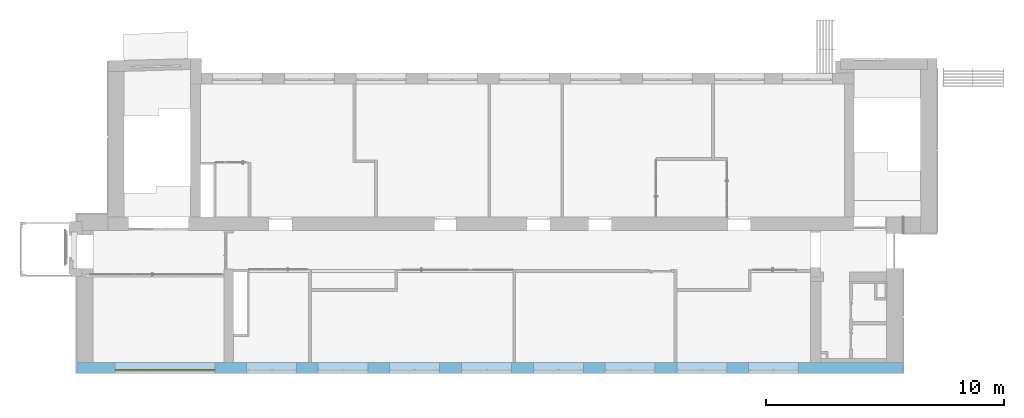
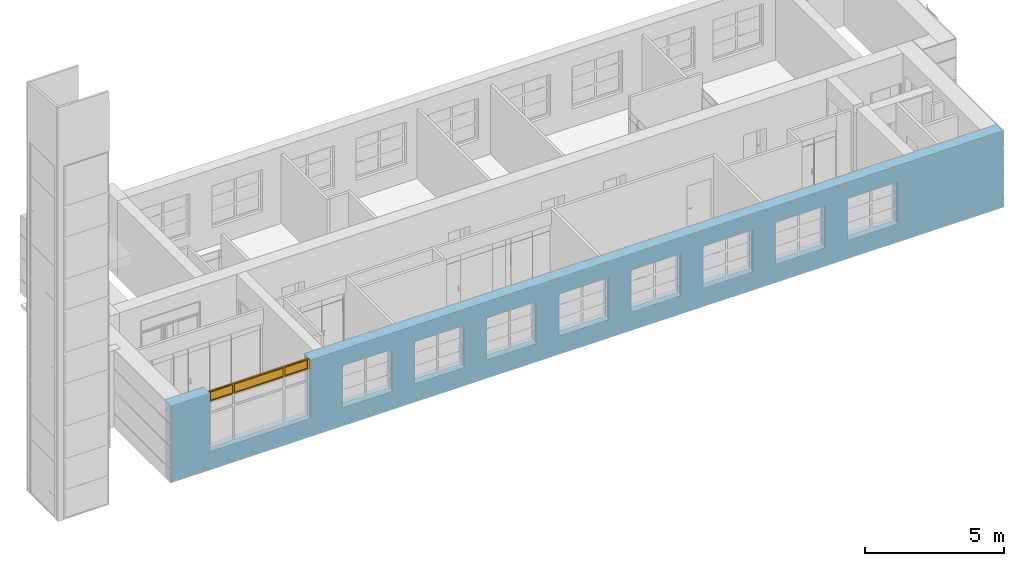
# One storey, part 47 of 66: 1 window, 10 openings, plus 1 element that does not belong to this part.
"""IFC2X3 building model written with IfcOpenShell, lengths in millimetres."""

from ifc_helpers import new_model, entity, si_unit, converted_unit, derived_unit, direction, frame, frame_2d, origin, origin_2d_with_axis, place, context, subcontext, project, spatial, rectangle, extrude, source, transform, mapped, material, material_list, layer, layer_set, layer_usage, type_object, type_shapes, element, fill, save


model = new_model("IFC2X3")

# Units and contexts
model_context = context("Model", 3, precision=0.01, world=origin(), true_north=direction((6.12303176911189e-17, 1.0)))
body_context = subcontext(model_context, "Body", "Model", "MODEL_VIEW")
ifc_project = project(units=[si_unit("LENGTHUNIT", "METRE", prefix="MILLI"), si_unit("AREAUNIT", "SQUARE_METRE"), si_unit("VOLUMEUNIT", "CUBIC_METRE"), converted_unit("PLANEANGLEUNIT", "DEGREE", entity("IfcRatioMeasure", 0.0174532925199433), si_unit("PLANEANGLEUNIT", "RADIAN"), dimensions=[0, 0, 0, 0, 0, 0, 0]), si_unit("MASSUNIT", "GRAM", prefix="KILO"), derived_unit("MASSDENSITYUNIT", [(si_unit("MASSUNIT", "GRAM", prefix="KILO"), 1), (si_unit("LENGTHUNIT", "METRE"), -3)]), si_unit("TIMEUNIT", "SECOND"), si_unit("FREQUENCYUNIT", "HERTZ"), si_unit("THERMODYNAMICTEMPERATUREUNIT", "DEGREE_CELSIUS"), derived_unit("THERMALTRANSMITTANCEUNIT", [(si_unit("MASSUNIT", "GRAM", prefix="KILO"), 1), (si_unit("THERMODYNAMICTEMPERATUREUNIT", "KELVIN"), -1), (si_unit("TIMEUNIT", "SECOND"), -3)]), derived_unit("VOLUMETRICFLOWRATEUNIT", [(si_unit("LENGTHUNIT", "METRE"), 3), (si_unit("TIMEUNIT", "SECOND"), -1)]), si_unit("ELECTRICCURRENTUNIT", "AMPERE"), si_unit("ELECTRICVOLTAGEUNIT", "VOLT"), si_unit("POWERUNIT", "WATT"), si_unit("FORCEUNIT", "NEWTON", prefix="KILO"), si_unit("ILLUMINANCEUNIT", "LUX"), si_unit("LUMINOUSFLUXUNIT", "LUMEN"), si_unit("LUMINOUSINTENSITYUNIT", "CANDELA"), derived_unit("USERDEFINED", [(si_unit("MASSUNIT", "GRAM", prefix="KILO"), -1), (si_unit("LENGTHUNIT", "METRE"), -2), (si_unit("TIMEUNIT", "SECOND"), 3), (si_unit("LUMINOUSFLUXUNIT", "LUMEN"), 1)]), derived_unit("LINEARVELOCITYUNIT", [(si_unit("LENGTHUNIT", "METRE"), 1), (si_unit("TIMEUNIT", "SECOND"), -1)]), si_unit("PRESSUREUNIT", "PASCAL"), derived_unit("USERDEFINED", [(si_unit("LENGTHUNIT", "METRE"), -2), (si_unit("MASSUNIT", "GRAM", prefix="KILO"), 1), (si_unit("TIMEUNIT", "SECOND"), -2)])], contexts=[model_context])

# Site, building, storey
site_placement = place(None, frame((-151.875543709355, 2715.0, 0.0)))
site = spatial("IfcSite", under=ifc_project, at=site_placement, Name="Surface", CompositionType="ELEMENT")
building_placement = place(site_placement, origin())
building = spatial("IfcBuilding", under=site, at=building_placement, CompositionType="ELEMENT")
storey_placement = place(building_placement, frame((0.0, 0.0, 3350.0)))
storey = spatial("IfcBuildingStorey", under=building, at=storey_placement, Name="2 korrus", CompositionType="ELEMENT", Elevation=3350.00000000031)

# Wall, openings, window
ifc_material_1 = material(Name="Brick, Common")
ifc_layer_1 = layer(ifc_material_1, 440.0)
ifc_material_2 = material(Name="__Kips GN13_tava")
ifc_layer_2 = layer(ifc_material_2, 20.0)
ifc_layer_set = layer_set([ifc_layer_1, ifc_layer_2], Name="Basic Wall:VS-1")
ifc_layer_usage = layer_usage(ifc_layer_set, "AXIS2", "NEGATIVE", 230.0)
wall_type = type_object("IfcWallType", Name="Basic Wall:VS-1", PredefinedType="STANDARD", material=ifc_layer_set)
wall_placement = place(storey_placement, frame((34420.6162682, 229.904632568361, 0.0), z_axis=(0.0, 0.0, 1.0), x_axis=(-1.0, 0.0, 0.0)))
wall = element("IfcWallStandardCase", 1, at=wall_placement, inside=storey, type_object=wall_type, material=ifc_layer_usage, Name="SEIN - 001", ObjectType="Basic Wall:VS-1", context=body_context, shape_type="SweptSolid", body=[
    extrude(rectangle(XDim=34639.7407226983, YDim=460.0, at=frame_2d((17319.8703613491, 0.0), x_axis=(-1.0, 0.0))), origin(), (0.0, 0.0, 1.0), 3380.43203354),
])
opening_1_placement = place(wall_placement, frame((34420.6162682, 229.904632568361, 0.0), z_axis=(0.0, 0.0, 1.0), x_axis=(-1.0, 0.0, 0.0)))
element("IfcOpeningElement", 2, at=opening_1_placement, cuts=wall, Name="SEIN - 001", ObjectType="Opening", context=body_context, shape_type="SweptSolid", body=[
    extrude(rectangle(XDim=2124.86776352, YDim=4200.0, at=frame_2d((2.27373675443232e-13, -5.6843418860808e-13), x_axis=(0.0, 1.0))), frame((3483.85381698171, 928.104632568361, 1872.43388175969), z_axis=(0.0, -1.0, 0.0), x_axis=(-1.0, 0.0, 0.0)), (0.0, 0.0, 1.0), 1393.8),
])
opening_2_placement = place(wall_placement, frame((34420.6162682, 229.904632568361, 0.0), z_axis=(0.0, 0.0, 1.0), x_axis=(-1.0, 0.0, 0.0)))
opening_2 = element("IfcOpeningElement", 3, at=opening_2_placement, cuts=wall, Name="SEIN - 001", ObjectType="Opening", context=body_context, shape_type="SweptSolid", body=[
    extrude(rectangle(XDim=445.564270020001, YDim=4200.0, at=origin_2d_with_axis()), frame((3483.85381698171, 928.104632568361, 3157.64989852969), z_axis=(0.0, -1.0, 0.0), x_axis=(0.0, 0.0, -1.0)), (0.0, 0.0, 1.0), 1393.8),
])
opening_3_placement = place(wall_placement, frame((34420.6162682, 229.904632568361, 0.0), z_axis=(0.0, 0.0, 1.0), x_axis=(-1.0, 0.0, 0.0)))
element("IfcOpeningElement", 4, at=opening_3_placement, cuts=wall, Name="SEIN - 001", ObjectType="Opening", context=body_context, shape_type="SweptSolid", body=[
    extrude(rectangle(XDim=1850.0, YDim=2100.0, at=frame_2d((-2.8421709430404e-13, 1.02318153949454e-12), x_axis=(1.0, 0.0))), frame((10949.5647264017, 927.804632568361, 1734.62869644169), z_axis=(0.0, -1.0, 0.0), x_axis=(0.0, 0.0, 1.0)), (0.0, 0.0, 1.0), 1393.8),
])
opening_4_placement = place(wall_placement, frame((34420.6162682, 229.904632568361, 0.0), z_axis=(0.0, 0.0, 1.0), x_axis=(-1.0, 0.0, 0.0)))
element("IfcOpeningElement", 5, at=opening_4_placement, cuts=wall, Name="SEIN - 001", ObjectType="Opening", context=body_context, shape_type="SweptSolid", body=[
    extrude(rectangle(XDim=1850.0, YDim=2100.0, at=frame_2d((-2.8421709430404e-13, 5.6843418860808e-13), x_axis=(1.0, 0.0))), frame((7949.56472636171, 927.804632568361, 1734.62869644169), z_axis=(0.0, -1.0, 0.0), x_axis=(0.0, 0.0, 1.0)), (0.0, 0.0, 1.0), 1393.8),
])
opening_5_placement = place(wall_placement, frame((34420.6162682, 229.904632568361, 0.0), z_axis=(0.0, 0.0, 1.0), x_axis=(-1.0, 0.0, 0.0)))
element("IfcOpeningElement", 6, at=opening_5_placement, cuts=wall, Name="SEIN - 001", ObjectType="Opening", context=body_context, shape_type="SweptSolid", body=[
    extrude(rectangle(XDim=1850.0, YDim=2100.0, at=frame_2d((-2.8421709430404e-13, 0.0), x_axis=(1.0, 0.0))), frame((13949.5647264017, 927.804632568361, 1734.62869644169), z_axis=(0.0, -1.0, 0.0), x_axis=(0.0, 0.0, 1.0)), (0.0, 0.0, 1.0), 1393.8),
])
opening_6_placement = place(wall_placement, frame((34420.6162682, 229.904632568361, 0.0), z_axis=(0.0, 0.0, 1.0), x_axis=(-1.0, 0.0, 0.0)))
element("IfcOpeningElement", 7, at=opening_6_placement, cuts=wall, Name="SEIN - 001", ObjectType="Opening", context=body_context, shape_type="SweptSolid", body=[
    extrude(rectangle(XDim=1850.0, YDim=2100.0, at=frame_2d((-2.8421709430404e-13, 1.02318153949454e-12), x_axis=(1.0, 0.0))), frame((16969.5647264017, 927.804632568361, 1734.62869644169), z_axis=(0.0, -1.0, 0.0), x_axis=(0.0, 0.0, 1.0)), (0.0, 0.0, 1.0), 1393.8),
])
opening_7_placement = place(wall_placement, frame((34420.6162682, 229.904632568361, 0.0), z_axis=(0.0, 0.0, 1.0), x_axis=(-1.0, 0.0, 0.0)))
element("IfcOpeningElement", 8, at=opening_7_placement, cuts=wall, Name="SEIN - 001", ObjectType="Opening", context=body_context, shape_type="SweptSolid", body=[
    extrude(rectangle(XDim=1850.0, YDim=2100.0, at=frame_2d((-2.8421709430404e-13, 0.0), x_axis=(1.0, 0.0))), frame((19979.5647264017, 927.804632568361, 1734.62869644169), z_axis=(0.0, -1.0, 0.0), x_axis=(0.0, 0.0, 1.0)), (0.0, 0.0, 1.0), 1393.8),
])
opening_8_placement = place(wall_placement, frame((34420.6162682, 229.904632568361, 0.0), z_axis=(0.0, 0.0, 1.0), x_axis=(-1.0, 0.0, 0.0)))
element("IfcOpeningElement", 9, at=opening_8_placement, cuts=wall, Name="SEIN - 001", ObjectType="Opening", context=body_context, shape_type="SweptSolid", body=[
    extrude(rectangle(XDim=1850.0, YDim=2100.0, at=frame_2d((-2.8421709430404e-13, 0.0), x_axis=(1.0, 0.0))), frame((22979.5647264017, 927.804632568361, 1734.62869644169), z_axis=(0.0, -1.0, 0.0), x_axis=(0.0, 0.0, 1.0)), (0.0, 0.0, 1.0), 1393.8),
])
opening_9_placement = place(wall_placement, frame((34420.6162682, 229.904632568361, 0.0), z_axis=(0.0, 0.0, 1.0), x_axis=(-1.0, 0.0, 0.0)))
element("IfcOpeningElement", 10, at=opening_9_placement, cuts=wall, Name="SEIN - 001", ObjectType="Opening", context=body_context, shape_type="SweptSolid", body=[
    extrude(rectangle(XDim=1850.0, YDim=2100.0, at=frame_2d((-2.8421709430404e-13, 0.0), x_axis=(1.0, 0.0))), frame((25989.5647264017, 927.804632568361, 1734.62869644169), z_axis=(0.0, -1.0, 0.0), x_axis=(0.0, 0.0, 1.0)), (0.0, 0.0, 1.0), 1393.8),
])
opening_10_placement = place(wall_placement, frame((34420.6162682, 229.904632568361, 0.0), z_axis=(0.0, 0.0, 1.0), x_axis=(-1.0, 0.0, 0.0)))
element("IfcOpeningElement", 11, at=opening_10_placement, cuts=wall, Name="SEIN - 001", ObjectType="Opening", context=body_context, shape_type="SweptSolid", body=[
    extrude(rectangle(XDim=1850.0, YDim=2100.0, at=frame_2d((-2.8421709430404e-13, 0.0), x_axis=(1.0, 0.0))), frame((28999.5647264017, 927.804632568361, 1734.62869644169), z_axis=(0.0, -1.0, 0.0), x_axis=(0.0, 0.0, 1.0)), (0.0, 0.0, 1.0), 1393.8),
])
ifc_material_3 = material(Name="Paint - Light Gray")
ifc_material_4 = material(Name="Paint - Titanium White")
ifc_material_5 = material(Name="Paint - Dark Gray")
ifc_material_list_1 = material_list([ifc_material_3, ifc_material_4, ifc_material_5])
ifc_material_list_2 = material_list([ifc_material_3, ifc_material_4, ifc_material_5])
window_style = type_object("IfcWindowStyle", Name="AKEN - 001", ConstructionType="NOTDEFINED", OperationType="NOTDEFINED", ParameterTakesPrecedence=False, Sizeable=False, material=ifc_material_list_2)
shared_shape = source(origin(), body_context, "Body", "SweptSolid", [
    extrude(rectangle(XDim=50.0, YDim=930.40893555, at=origin_2d_with_axis()), frame((3654.795532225, 610.6, 40.0), z_axis=(0.0, 0.0, 1.0), x_axis=(0.0, -1.0, 0.0)), (0.0, 0.0, 1.0), 365.56427002),
    extrude(rectangle(XDim=50.0, YDim=2020.0, at=origin_2d_with_axis()), frame((2099.59106445, 610.6, 40.0), z_axis=(0.0, 0.0, 1.0), x_axis=(0.0, -1.0, 0.0)), (0.0, 0.0, 1.0), 365.56427002),
    extrude(rectangle(XDim=50.0, YDim=929.59106445, at=frame_2d((0.0, 5.6843418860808e-14), x_axis=(1.0, 0.0))), frame((544.795532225, 610.6, 40.0), z_axis=(0.0, 0.0, 1.0), x_axis=(0.0, -1.0, 0.0)), (0.0, 0.0, 1.0), 365.56427002),
    extrude(rectangle(XDim=40.0, YDim=4200.0, at=frame_2d((-0.163574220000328, 12.0), x_axis=(0.0, 1.0))), frame((2099.83642578, 610.6, 413.56427002), z_axis=(0.0, 1.0, 0.0), x_axis=(-1.0, 0.0, 0.0)), (0.0, 0.0, 1.0), 25.0),
    extrude(rectangle(XDim=40.0, YDim=4200.0, at=frame_2d((0.163574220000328, 12.0), x_axis=(0.0, 1.0))), frame((2099.83642578, 610.6, 32.0), z_axis=(0.0, 1.0, 0.0), x_axis=(1.0, 0.0, 0.0)), (0.0, 0.0, 1.0), 25.0),
    extrude(rectangle(XDim=25.0, YDim=80.0, at=origin_2d_with_axis()), frame((1049.59106445, 623.1, 40.0), z_axis=(0.0, 0.0, 1.0), x_axis=(0.0, -1.0, 0.0)), (0.0, 0.0, 1.0), 365.56427002),
    extrude(rectangle(XDim=25.0, YDim=79.9999999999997, at=origin_2d_with_axis()), frame((3149.59106445, 623.1, 40.0), z_axis=(0.0, 0.0, 1.0), x_axis=(0.0, -1.0, 0.0)), (0.0, 0.0, 1.0), 365.56427002),
    extrude(rectangle(XDim=25.0, YDim=80.0000000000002, at=origin_2d_with_axis()), frame((4160.0, 623.1, 40.0), z_axis=(0.0, 0.0, 1.0), x_axis=(0.0, -1.0, 0.0)), (0.0, 0.0, 1.0), 365.56427002),
    extrude(rectangle(XDim=25.0, YDim=80.0, at=frame_2d((0.0, -1.35003119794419e-13), x_axis=(1.0, 0.0))), frame((40.0, 623.1, 40.0), z_axis=(0.0, 0.0, 1.0), x_axis=(0.0, -1.0, 0.0)), (0.0, 0.0, 1.0), 365.56427002),
    extrude(rectangle(XDim=40.0, YDim=4200.0, at=frame_2d((-0.163574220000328, 12.0), x_axis=(0.0, 1.0))), frame((2099.83642578, 565.6, 413.56427002), z_axis=(0.0, 1.0, 0.0), x_axis=(-1.0, 0.0, 0.0)), (0.0, 0.0, 1.0), 45.0),
    extrude(rectangle(XDim=40.0, YDim=4200.0, at=frame_2d((0.163574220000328, 12.0), x_axis=(0.0, 1.0))), frame((2099.83642578, 565.6, 32.0), z_axis=(0.0, 1.0, 0.0), x_axis=(1.0, 0.0, 0.0)), (0.0, 0.0, 1.0), 45.0),
    extrude(rectangle(XDim=45.0, YDim=80.0, at=origin_2d_with_axis()), frame((1049.59106445, 588.1, 40.0), z_axis=(0.0, 0.0, 1.0), x_axis=(0.0, -1.0, 0.0)), (0.0, 0.0, 1.0), 365.56427002),
    extrude(rectangle(XDim=45.0, YDim=79.9999999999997, at=origin_2d_with_axis()), frame((3149.59106445, 588.1, 40.0), z_axis=(0.0, 0.0, 1.0), x_axis=(0.0, -1.0, 0.0)), (0.0, 0.0, 1.0), 365.56427002),
    extrude(rectangle(XDim=45.0, YDim=80.0000000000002, at=origin_2d_with_axis()), frame((4160.0, 588.1, 40.0), z_axis=(0.0, 0.0, 1.0), x_axis=(0.0, -1.0, 0.0)), (0.0, 0.0, 1.0), 365.56427002),
    extrude(rectangle(XDim=45.0, YDim=80.0, at=frame_2d((0.0, -1.35003119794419e-13), x_axis=(1.0, 0.0))), frame((40.0, 588.1, 40.0), z_axis=(0.0, 0.0, 1.0), x_axis=(0.0, -1.0, 0.0)), (0.0, 0.0, 1.0), 365.56427002),
])
type_shapes(window_style, [shared_shape])
window_placement = place(opening_2_placement, frame((1383.85381698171, -465.695367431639, 2934.86776351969)))
window = element("IfcWindow", 12, at=window_placement, inside=storey, type_object=window_style, material=ifc_material_list_1, Name="AKEN - 001 60764:AKEN - 001 60764", ObjectType="AKEN - 001 60764", OverallHeight=4200.0, OverallWidth=445.564270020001, context=body_context, shape_type="MappedRepresentation", body=[
    mapped(shared_shape, transform((0.0, 0.0, 0.0), scale=1.0)),
])
fill(opening_2, window)

save(model, "model.ifc")
